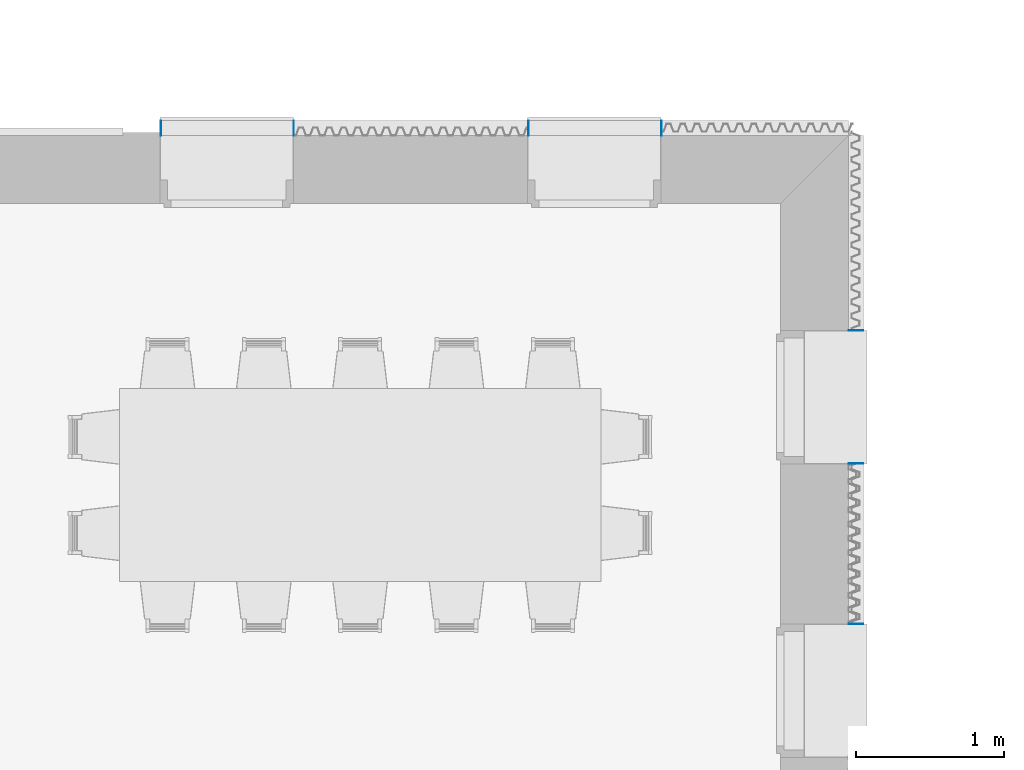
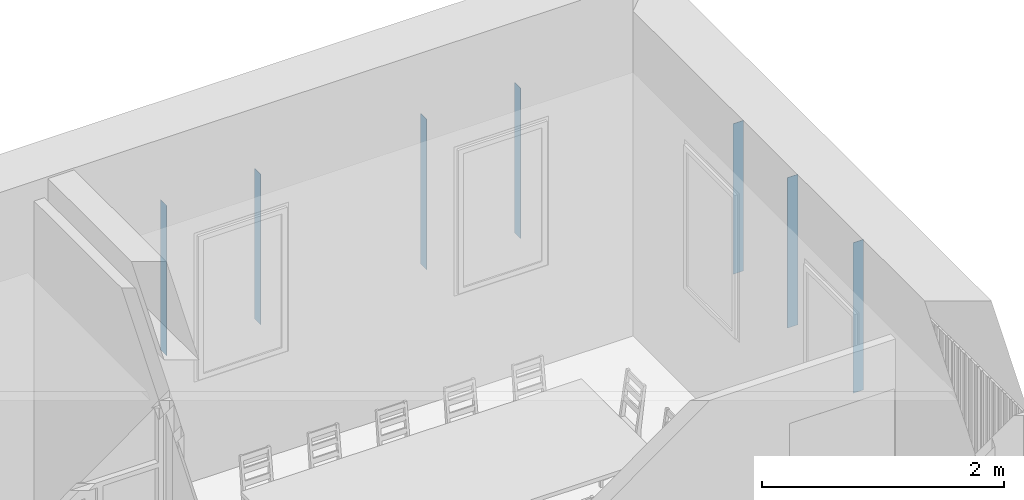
# One storey, part 5 of 91: 7 columns.
"""IFC2X3 building model written with IfcOpenShell, lengths in metres."""

import ifcopenshell
import ifcopenshell.guid

model = None  # the IFC model being written
_history = None  # IfcOwnerHistory: only IFC2X3 demands one
_inside = {}  # id of a spatial element -> (the spatial element, [elements in it])
_under = {}  # id of a project, library or spatial element -> (it, [spatial elements below it])
_declared = {}  # id of a project -> (the project, [libraries it declares])
_typed = {}  # id of a type object -> (the type object, [elements of that type])
_made_of = {}  # id of a material, layer set ... -> (it, [elements and type objects made of it])


def new_model(schema):
    """Start an empty IFC model of exactly this schema.

    Asked for "IFC4X3", IfcOpenShell would pick the latest addendum, in which some entities
    have other attributes; the version numbers below select the first issue.
    IFC2X3 requires an IfcOwnerHistory on every rooted entity: one is made here for all.
    """
    global model, _history
    if schema == "IFC4X3":
        model = ifcopenshell.file(schema_version=(4, 3, 0, 0))
    else:
        model = ifcopenshell.file(schema=schema)
    _inside.clear()
    _under.clear()
    _declared.clear()
    _typed.clear()
    _made_of.clear()
    _history = None
    if model.schema == "IFC2X3":
        org = make("IfcOrganization", Name="unknown")
        user = make(
            "IfcPersonAndOrganization",
            ThePerson=make("IfcPerson", FamilyName="unknown"),
            TheOrganization=org,
        )
        app = make(
            "IfcApplication",
            ApplicationDeveloper=org,
            Version="unknown",
            ApplicationFullName="unknown",
            ApplicationIdentifier="unknown",
        )
        _history = make(
            "IfcOwnerHistory",
            OwningUser=user,
            OwningApplication=app,
            ChangeAction="ADDED",
            CreationDate=0,
        )
    return model


def make(cls, **values):
    """One entity of the class cls with the attributes given. An attribute that is None is left unset."""
    return model.create_entity(
        cls, **{name: value for name, value in values.items() if value is not None}
    )


def entity(cls, *values):
    """Any entity or typed value of the class cls, its attributes in the order of the schema. None: left unset."""
    e = model.create_entity(cls)
    for i, value in enumerate(values):
        if value is not None:
            e[i] = value
    return e


def rooted(cls, **values):
    """An entity with a GlobalId (a new one), such as an element, a storey or a relation."""
    return make(cls, GlobalId=ifcopenshell.guid.new(), OwnerHistory=_history, **values)


def si_unit(unit_type, name, prefix=None):
    """IfcSIUnit, for example si_unit("LENGTHUNIT", "METRE", prefix="MILLI")."""
    return make("IfcSIUnit", UnitType=unit_type, Prefix=prefix, Name=name)


def converted_unit(unit_type, name, factor, base, dimensions=None, offset=None):
    """IfcConversionBasedUnit, such as the inch: factor (a typed value) times the base unit."""
    return make(
        "IfcConversionBasedUnit"
        if offset is None
        else "IfcConversionBasedUnitWithOffset",
        ConversionOffset=offset,
        Dimensions=None
        if dimensions is None
        else entity("IfcDimensionalExponents", *dimensions),
        UnitType=unit_type,
        Name=name,
        ConversionFactor=make(
            "IfcMeasureWithUnit", ValueComponent=factor, UnitComponent=base
        ),
    )


def derived_unit(unit_type, elements):
    """IfcDerivedUnit: a product of units, each with its exponent."""
    return make(
        "IfcDerivedUnit",
        Elements=[
            make("IfcDerivedUnitElement", Unit=unit, Exponent=power)
            for unit, power in elements
        ],
        UnitType=unit_type,
    )


def money_unit(currency):
    """IfcMonetaryUnit."""
    return make("IfcMonetaryUnit", Currency=currency)


def assignment(units):
    """IfcUnitAssignment: the units of a project."""
    return None if units is None else make("IfcUnitAssignment", Units=units)


def point(xyz):
    """IfcCartesianPoint."""
    return None if xyz is None else make("IfcCartesianPoint", Coordinates=xyz)


def direction(xyz):
    """IfcDirection."""
    return None if xyz is None else make("IfcDirection", DirectionRatios=xyz)


def frame(location, z_axis=None, x_axis=None):
    """IfcAxis2Placement3D, a coordinate frame: its origin and axes. An axis left out is left unset."""
    return make(
        "IfcAxis2Placement3D",
        Location=point(location),
        Axis=direction(z_axis),
        RefDirection=direction(x_axis),
    )


def frame_2d(location, x_axis=None):
    """IfcAxis2Placement2D, a coordinate frame in the plane: its origin and x axis."""
    return make(
        "IfcAxis2Placement2D", Location=point(location), RefDirection=direction(x_axis)
    )


def origin_with_axes():
    """The frame at (0, 0, 0) with the z axis (0, 0, 1) and the x axis (1, 0, 0) written out."""
    return frame((0.0, 0.0, 0.0), z_axis=(0.0, 0.0, 1.0), x_axis=(1.0, 0.0, 0.0))


def origin_2d_with_axis():
    """The frame at (0, 0) in the plane with the x axis (1, 0) written out."""
    return frame_2d((0.0, 0.0), x_axis=(1.0, 0.0))


def place(relative_to, where):
    """IfcLocalPlacement: puts the frame where relative to a parent placement (None: the world)."""
    return make(
        "IfcLocalPlacement", PlacementRelTo=relative_to, RelativePlacement=where
    )


def context(
    kind, dimensions, precision=None, world=None, true_north=None, identifier=None
):
    """IfcGeometricRepresentationContext, for example the 3D "Model" context."""
    return make(
        "IfcGeometricRepresentationContext",
        ContextIdentifier=identifier,
        ContextType=kind,
        CoordinateSpaceDimension=dimensions,
        Precision=precision,
        WorldCoordinateSystem=world,
        TrueNorth=true_north,
    )


def subcontext(parent, identifier, kind, view, scale=None):
    """IfcGeometricRepresentationSubContext, for example "Body" below "Model"."""
    return make(
        "IfcGeometricRepresentationSubContext",
        ContextIdentifier=identifier,
        ContextType=kind,
        ParentContext=parent,
        TargetScale=scale,
        TargetView=view,
    )


def project(units=None, contexts=None):
    """IfcProject with its units and contexts."""
    return rooted(
        "IfcProject",
        Name="project",
        RepresentationContexts=contexts,
        UnitsInContext=assignment(units),
    )


def spatial(cls, under=None, at=None, **own):
    """A site, building, storey or space (cls), placed at a placement, below another one or the project."""
    s = rooted(cls, ObjectPlacement=at, **own)
    if under is not None:
        _under.setdefault(under.id(), (under, []))[1].append(s)
    return s


def profile(cls, at=None, kind="AREA", **sizes):
    """A parametric profile (cls). Its sizes go by their IFC names, for example OverallWidth=200.0."""
    return make(cls, ProfileType=kind, Position=at, **sizes)


def rectangle(**sizes):
    """IfcRectangleProfileDef."""
    return profile("IfcRectangleProfileDef", **sizes)


def extrude(swept, where, along, depth):
    """IfcExtrudedAreaSolid: the profile swept, set in the frame where, extruded along a direction by depth."""
    return make(
        "IfcExtrudedAreaSolid",
        SweptArea=swept,
        Position=where,
        ExtrudedDirection=direction(along),
        Depth=depth,
    )


def shape(context_of_items, identifier, shape_type, items):
    """IfcShapeRepresentation: the items that make up one representation, for example the "Body"."""
    return make(
        "IfcShapeRepresentation",
        ContextOfItems=context_of_items,
        RepresentationIdentifier=identifier,
        RepresentationType=shape_type,
        Items=items,
    )


def material(Name=None, Category=None):
    """IfcMaterial."""
    return make("IfcMaterial", Name=Name, Category=Category)


def made_of(thing, what):
    """Note that an element or type object is made of a material, layer set ...; save() writes the relation."""
    if what is not None:
        _made_of.setdefault(what.id(), (what, []))[1].append(thing)
    return thing


def type_object(cls, material=None, **own):
    """A type object (cls), such as IfcWallType, which elements share."""
    return made_of(rooted(cls, **own), material)


def element(
    cls,
    number,
    at=None,
    inside=None,
    cuts=None,
    type_object=None,
    material=None,
    context=None,
    identifier="Body",
    shape_type=None,
    held_by="IfcProductDefinitionShape",
    body=None,
    shapes=None,
    **own,
):
    """One element of the class cls, such as IfcWall. Its Tag is "e" and its number.

    at: its placement. inside: the storey or other place that contains it. cuts: it is an
    opening in that element (IfcRelVoidsElement). A single representation is given by context,
    identifier, shape_type and body (its items); several are given by shapes. held_by: the class
    of the entity that holds the representations. save() writes the other relations.
    """
    e = rooted(cls, Tag="e%d" % number, ObjectPlacement=at, **own)
    if body is not None:
        shapes = [shape(context, identifier, shape_type, body)]
    if shapes is not None:
        e.Representation = make(held_by, Representations=shapes)
    if inside is not None:
        _inside.setdefault(inside.id(), (inside, []))[1].append(e)
    if cuts is not None:
        rooted(
            "IfcRelVoidsElement", RelatingBuildingElement=cuts, RelatedOpeningElement=e
        )
    if type_object is not None:
        _typed.setdefault(type_object.id(), (type_object, []))[1].append(e)
    return made_of(e, material)


def aggregate(whole, parts):
    """IfcRelAggregates: a whole, such as a stair, and the parts it consists of."""
    return rooted("IfcRelAggregates", RelatingObject=whole, RelatedObjects=parts)


def save(model, path):
    """Write the relations noted so far, then the file.

    IfcRelAggregates (storeys below a building ...), IfcRelContainedInSpatialStructure (elements
    in a storey), IfcRelDefinesByType, IfcRelAssociatesMaterial and IfcRelDeclares: one each for
    every whole, place, type object, material and project.
    """
    for whole, parts in _under.values():
        aggregate(whole, parts)
    for where, things in _inside.values():
        rooted(
            "IfcRelContainedInSpatialStructure",
            RelatedElements=things,
            RelatingStructure=where,
        )
    for kind, things in _typed.values():
        rooted("IfcRelDefinesByType", RelatedObjects=things, RelatingType=kind)
    for what, things in _made_of.values():
        rooted("IfcRelAssociatesMaterial", RelatedObjects=things, RelatingMaterial=what)
    for by, libraries in _declared.values():
        rooted("IfcRelDeclares", RelatingContext=by, RelatedDefinitions=libraries)
    model.write(path)


model = new_model("IFC2X3")

# Units and contexts
model_context = context("Model", 3, precision=1e-05, world=origin_with_axes(), true_north=direction((0.0, 1.0)))
body_context = subcontext(model_context, "Body", "Model", "MODEL_VIEW")
ifc_project = project(units=[si_unit("LENGTHUNIT", "METRE"), si_unit("AREAUNIT", "SQUARE_METRE"), si_unit("VOLUMEUNIT", "CUBIC_METRE"), converted_unit("PLANEANGLEUNIT", "DEGREE", entity("IfcPlaneAngleMeasure", 0.0174532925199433), si_unit("PLANEANGLEUNIT", "RADIAN"), dimensions=[0, 0, 0, 0, 0, 0, 0]), money_unit("EUR"), converted_unit("TIMEUNIT", "Year", entity("IfcTimeMeasure", 31557600.0), si_unit("TIMEUNIT", "SECOND"), dimensions=[0, 0, 1, 0, 0, 0, 0]), si_unit("MASSUNIT", "GRAM", prefix="KILO"), si_unit("THERMODYNAMICTEMPERATUREUNIT", "DEGREE_CELSIUS"), si_unit("LUMINOUSINTENSITYUNIT", "LUMEN"), si_unit("ENERGYUNIT", "JOULE", prefix="MEGA"), derived_unit("THERMALCONDUCTANCEUNIT", [(si_unit("POWERUNIT", "WATT"), 1), (si_unit("LENGTHUNIT", "METRE"), -1), (si_unit("THERMODYNAMICTEMPERATUREUNIT", "KELVIN"), -1)]), derived_unit("SPECIFICHEATCAPACITYUNIT", [(si_unit("ENERGYUNIT", "JOULE"), 1), (si_unit("MASSUNIT", "GRAM", prefix="KILO"), -1), (si_unit("THERMODYNAMICTEMPERATUREUNIT", "KELVIN"), -1)]), derived_unit("MASSDENSITYUNIT", [(si_unit("MASSUNIT", "GRAM", prefix="KILO"), 1), (si_unit("VOLUMEUNIT", "CUBIC_METRE"), -1)])], contexts=[model_context])

# Site, building, storey
site_placement = place(None, origin_with_axes())
site = spatial("IfcSite", under=ifc_project, at=site_placement, Name="Site", CompositionType="ELEMENT")
building_placement = place(site_placement, origin_with_axes())
building = spatial("IfcBuilding", under=site, at=building_placement, Name="Bâtiment", CompositionType="ELEMENT")
storey_placement = place(building_placement, origin_with_axes())
storey = spatial("IfcBuildingStorey", under=building, at=storey_placement, Name="RDC", CompositionType="ELEMENT", Elevation=0.0)

# Columns
ifc_material = material(Name="Aluminium")
column_type = type_object("IfcColumnType", Name="Aluminium 100 x 3", PredefinedType="NOTDEFINED")
for number, where, z_axis, x_axis in (
    (1, (55.61757972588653, -10.74973634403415, 0.9849384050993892), (0.0, 0.0, 1.0), (0.0, 1.0, 0.0)),
    (2, (56.51457972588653, -10.74973634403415, 0.9849384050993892), (0.0, 0.0, 1.0), (0.0, 1.0, 0.0)),
):
    element("IfcColumn", number, at=place(storey_placement, frame(where, z_axis=z_axis, x_axis=x_axis)), inside=storey, type_object=column_type, material=ifc_material, Name="PotB-005", context=body_context, shape_type="SweptSolid", body=[
        extrude(rectangle(XDim=0.1, YDim=0.003, at=origin_2d_with_axis()), frame((0.0, 0.0, 0.0), z_axis=(0.0, 0.0, -1.0), x_axis=(-1.0, 0.0, 0.0)), (0.0, 0.0, -1.0), 1.5163733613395),
    ])
for number, where, z_axis, x_axis in (
    (3, (60.30800000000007, -13.0130621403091, 0.9821266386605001), (0.0, 0.0, 1.0), (-1.0, 0.0, 0.0)),
    (4, (60.30800000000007, -12.1160621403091, 0.9821266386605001), (0.0, 0.0, 1.0), (-1.0, 0.0, 0.0)),
):
    element("IfcColumn", number, at=place(storey_placement, frame(where, z_axis=z_axis, x_axis=x_axis)), inside=storey, type_object=column_type, material=ifc_material, Name="PotB-005", context=body_context, shape_type="SweptSolid", body=[
        extrude(rectangle(XDim=0.1, YDim=0.003, at=origin_2d_with_axis()), origin_with_axes(), (0.0, 0.0, 1.0), 1.5178733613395),
    ])
for number, where, z_axis, x_axis in (
    (5, (58.09757972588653, -10.74973634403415, 0.9849384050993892), (0.0, 0.0, 1.0), (0.0, 1.0, 0.0)),
    (6, (58.99457972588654, -10.74973634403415, 0.9849384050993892), (0.0, 0.0, 1.0), (0.0, 1.0, 0.0)),
):
    element("IfcColumn", number, at=place(storey_placement, frame(where, z_axis=z_axis, x_axis=x_axis)), inside=storey, type_object=column_type, material=ifc_material, Name="PotB-005", context=body_context, shape_type="SweptSolid", body=[
        extrude(rectangle(XDim=0.1, YDim=0.003, at=origin_2d_with_axis()), frame((0.0, 0.0, 0.0), z_axis=(0.0, 0.0, -1.0), x_axis=(-1.0, 0.0, 0.0)), (0.0, 0.0, -1.0), 1.5163733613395),
    ])
column_placement = place(storey_placement, frame((60.30800000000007, -14.09606213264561, 0.9821266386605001), z_axis=(0.0, 0.0, 1.0), x_axis=(-1.0, 0.0, 0.0)))
element("IfcColumn", 7, at=column_placement, inside=storey, type_object=column_type, material=ifc_material, Name="PotB-005", context=body_context, shape_type="SweptSolid", body=[
    extrude(rectangle(XDim=0.1, YDim=0.003, at=origin_2d_with_axis()), origin_with_axes(), (0.0, 0.0, 1.0), 1.5178733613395),
])

save(model, "model.ifc")
